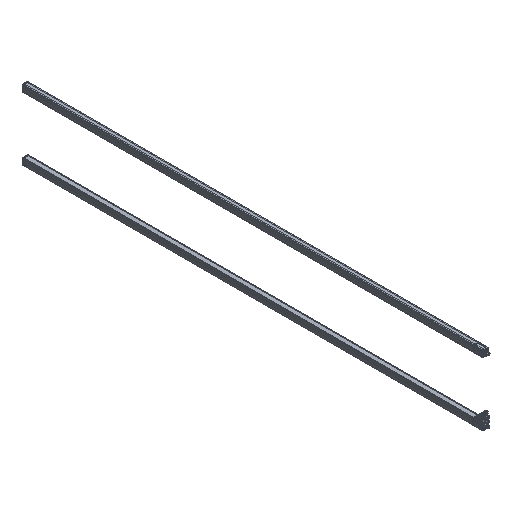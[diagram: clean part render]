
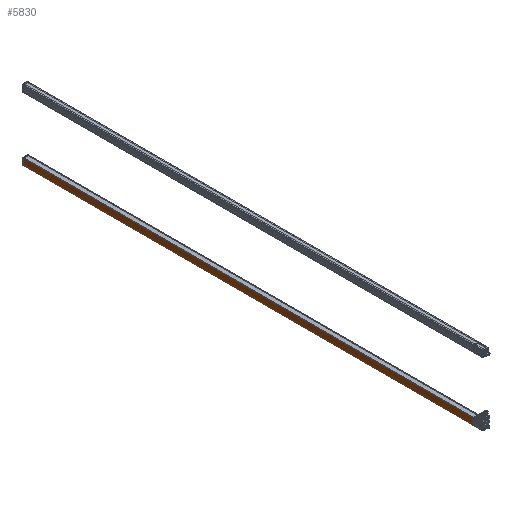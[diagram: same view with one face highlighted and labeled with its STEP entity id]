
A CAD part, isometric view. The second image highlights one B-rep face of the part: STEP entity #5830.
In plain terms, the highlighted cylindrical face has radius 250 mm (diameter 500 mm), a partial arc.
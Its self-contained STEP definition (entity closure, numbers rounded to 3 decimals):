
#5239=CYLINDRICAL_SURFACE('',#43258,250.);
#5830=ADVANCED_FACE('',(#9198),#5239,.T.);
#9198=FACE_OUTER_BOUND('',#11350,.T.);
#11350=EDGE_LOOP('',(#15797,#15798,#15799,#15800));
#14063=CIRCLE('',#43168,250.);
#14110=CIRCLE('',#43257,250.);
#15797=ORIENTED_EDGE('',*,*,#31576,.T.);
#15798=ORIENTED_EDGE('',*,*,#31700,.F.);
#15799=ORIENTED_EDGE('',*,*,#31701,.T.);
#15800=ORIENTED_EDGE('',*,*,#31698,.F.);
#27648=VERTEX_POINT('',#57020);
#27649=VERTEX_POINT('',#57022);
#27730=VERTEX_POINT('',#57266);
#27731=VERTEX_POINT('',#57270);
#31576=EDGE_CURVE('',#27649,#27648,#14063,.T.);
#31698=EDGE_CURVE('',#27649,#27730,#37677,.T.);
#31700=EDGE_CURVE('',#27731,#27648,#37678,.T.);
#31701=EDGE_CURVE('',#27731,#27730,#14110,.T.);
#37677=LINE('',#57265,#40394);
#37678=LINE('',#57269,#40395);
#40394=VECTOR('',#47083,1.);
#40395=VECTOR('',#47088,1.);
#43168=AXIS2_PLACEMENT_3D('',#57021,#46833,#46834);
#43257=AXIS2_PLACEMENT_3D('',#57271,#47089,#47090);
#43258=AXIS2_PLACEMENT_3D('',#57272,#47091,#47092);
#46833=DIRECTION('',(0.,0.,1.));
#46834=DIRECTION('',(-1.,0.,0.));
#47083=DIRECTION('',(0.,0.,1.));
#47088=DIRECTION('',(0.,0.,-1.));
#47089=DIRECTION('',(0.,0.,-1.));
#47090=DIRECTION('',(-0.998,0.067,0.));
#47091=DIRECTION('',(0.,0.,-1.));
#47092=DIRECTION('',(0.998,-0.067,0.));
#57020=CARTESIAN_POINT('',(13.731,16.86,-2320.));
#57021=CARTESIAN_POINT('',(-235.7,0.,-2320.));
#57022=CARTESIAN_POINT('',(13.793,-15.907,-2320.));
#57265=CARTESIAN_POINT('',(13.793,-15.907,-452.));
#57266=CARTESIAN_POINT('',(13.793,-15.907,0.));
#57269=CARTESIAN_POINT('',(13.731,16.86,0.));
#57270=CARTESIAN_POINT('',(13.731,16.86,0.));
#57271=CARTESIAN_POINT('',(-235.7,0.,0.));
#57272=CARTESIAN_POINT('',(-235.7,0.,0.));
